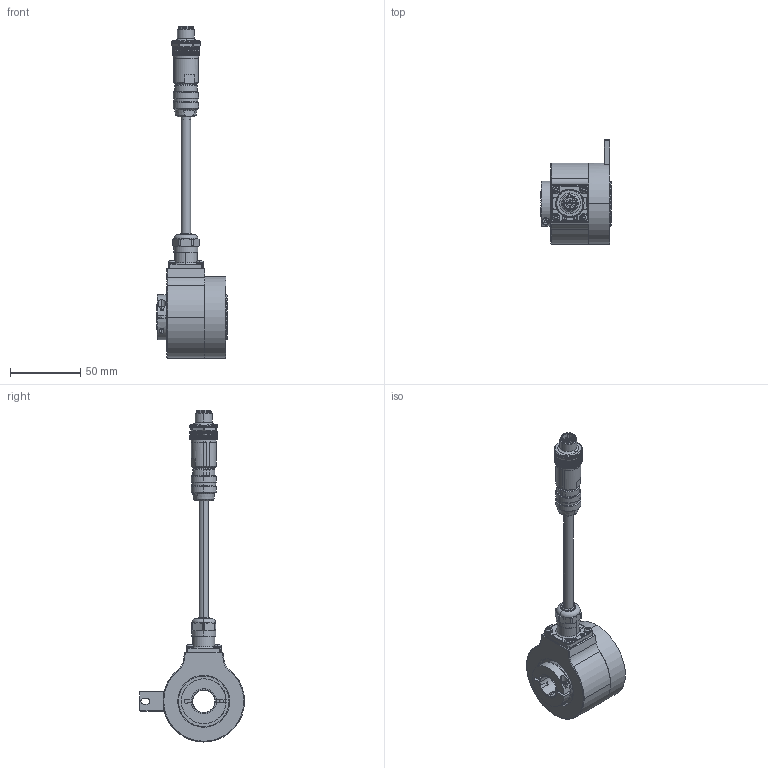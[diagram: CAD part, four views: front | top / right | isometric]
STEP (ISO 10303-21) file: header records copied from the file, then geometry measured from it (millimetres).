
FILE_DESCRIPTION (( 'STEP AP203' ), '1' );
FILE_NAME ('K58I.OXX.XXXXX.XC17516.XXR13.XXXX.step', '2025-12-03T07:48:07', ( '' ), ( '' ), 'SwSTEP 2.0', 'SolidWorks 2021', '' );
FILE_SCHEMA (( 'CONFIG_CONTROL_DESIGN' ));
Length unit declared in the file: millimetre
Products named in the file (1): K58I.OXX.XXXXX.XC17516.XXR13.XXXX
Bounding box: 50.1 x 74.75 x 236.49 mm (x, y, z)
Volume: 136771 mm3; surface area: 49540.8 mm2
Topology: 22 solids, 22 shells, 1598 faces, 3943 edges, 2412 vertices
Faces by surface type: plane 608, cylinder 551, cone 328, bspline 60, torus 35, sphere 16
Entity records: 50333 total; most frequent: CARTESIAN_POINT 13456, ORIENTED_EDGE 7838, DIRECTION 7606, EDGE_CURVE 3919, AXIS2_PLACEMENT_3D 2996, VERTEX_POINT 2410, EDGE_LOOP 1673, LINE 1614
